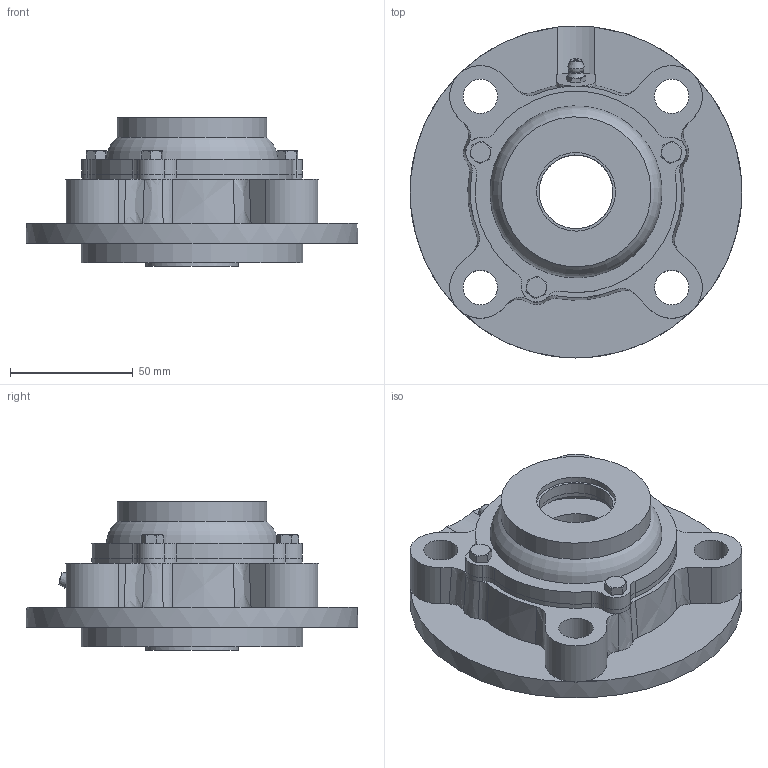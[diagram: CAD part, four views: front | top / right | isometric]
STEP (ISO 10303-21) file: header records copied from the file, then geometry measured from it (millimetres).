
FILE_DESCRIPTION((''),'2;1');
FILE_NAME('\\Ts-tgl068\j-cad-d-base\00.3DCADデータ作成フォルダ\02.フランジ形\CUKFC200\CUKFC207C+H.stp','2014-05-22T08:54:30',('btec_1106_2'),(''),'Autodesk Inventor 2012','Autodesk Inventor 2012','');
FILE_SCHEMA(('AUTOMOTIVE_DESIGN { 1 0 10303 214 1 1 1 1 }'));
Length unit declared in the file: millimetre
Products named in the file (7): CUKFC200C+H; CFC207; UK207; GU1; 207C30R; 207C30; M5X0
Assembly tree (8 placements, depth 3):
  CUKFC200C+H
    CFC207
    UK207
    GU1
    207C30R
      207C30
      M5X0  x3
Bounding box: 135 x 135 x 60.5 mm (x, y, z)
Volume: 296769.2 mm3; surface area: 85939.1 mm2
Topology: 7 solids, 7 shells, 301 faces, 760 edges, 489 vertices
Faces by surface type: plane 117, cylinder 87, cone 75, bspline 14, sphere 4, torus 4
Full cylindrical faces by diameter (mm): 4.134 x3, 5 x3, 5.359 x1, 6 x3, 6.35 x1, 14 x4, 30 x2, 32 x2, 48 x2, 61 x1, 70 x1, 74 x2, 90 x1, 135 x1
Entity records: 8510 total; most frequent: CARTESIAN_POINT 2296, ORIENTED_EDGE 1262, DIRECTION 1235, EDGE_CURVE 631, AXIS2_PLACEMENT_3D 521, VERTEX_POINT 428, EDGE_LOOP 346, FACE_OUTER_BOUND 267
